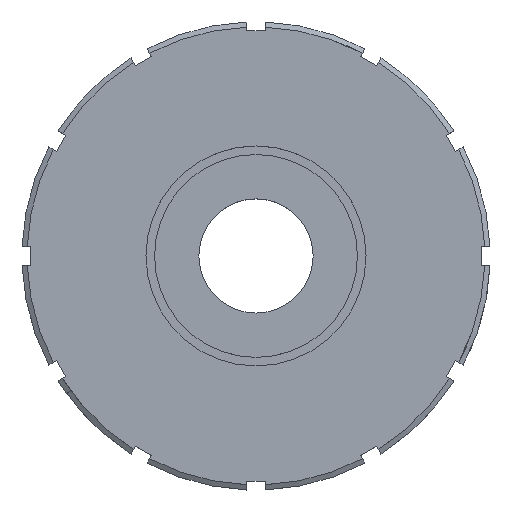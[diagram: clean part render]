
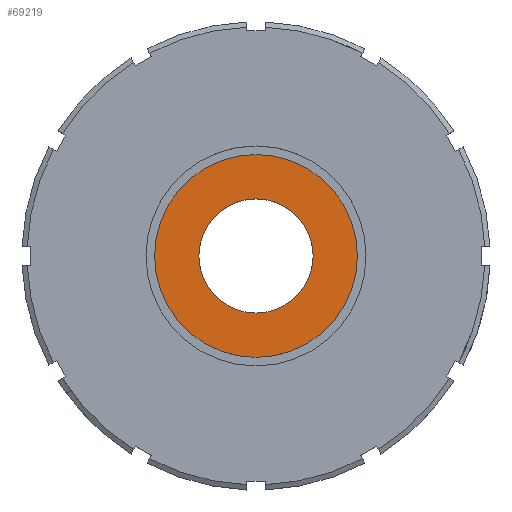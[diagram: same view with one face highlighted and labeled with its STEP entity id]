
A CAD part, top view. The second image highlights one B-rep face of the part: STEP entity #69219.
In plain terms, the highlighted planar face has unit normal (0, 0, 1).
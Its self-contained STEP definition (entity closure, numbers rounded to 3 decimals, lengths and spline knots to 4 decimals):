
#6119 = CYLINDRICAL_SURFACE('',#6120,3.4);
#6120 = AXIS2_PLACEMENT_3D('',#6121,#6122,#6123);
#6121 = CARTESIAN_POINT('',(0.,0.,-13.5));
#6122 = DIRECTION('',(0.,0.,1.));
#6123 = DIRECTION('',(1.,0.,-0.));
#43836 = EDGE_CURVE('',#43837,#43837,#43839,.T.);
#43837 = VERTEX_POINT('',#43838);
#43838 = CARTESIAN_POINT('',(3.4,0.,-9.45));
#43839 = SURFACE_CURVE('',#43840,(#43845,#43852),.PCURVE_S1.);
#43840 = CIRCLE('',#43841,3.4);
#43841 = AXIS2_PLACEMENT_3D('',#43842,#43843,#43844);
#43842 = CARTESIAN_POINT('',(0.,0.,-9.45));
#43843 = DIRECTION('',(0.,0.,1.));
#43844 = DIRECTION('',(1.,0.,-0.));
#43845 = PCURVE('',#6119,#43846);
#43846 = DEFINITIONAL_REPRESENTATION('',(#43847),#43851);
#43847 = LINE('',#43848,#43849);
#43848 = CARTESIAN_POINT('',(0.,4.05));
#43849 = VECTOR('',#43850,1.);
#43850 = DIRECTION('',(1.,0.));
#43851 = ( GEOMETRIC_REPRESENTATION_CONTEXT(2) 
PARAMETRIC_REPRESENTATION_CONTEXT() REPRESENTATION_CONTEXT('2D SPACE',''
  ) );
#43852 = PCURVE('',#43853,#43858);
#43853 = PLANE('',#43854);
#43854 = AXIS2_PLACEMENT_3D('',#43855,#43856,#43857);
#43855 = CARTESIAN_POINT('',(0.,0.,-9.45));
#43856 = DIRECTION('',(0.,0.,1.));
#43857 = DIRECTION('',(1.,0.,-0.));
#43858 = DEFINITIONAL_REPRESENTATION('',(#43859),#43863);
#43859 = CIRCLE('',#43860,3.4);
#43860 = AXIS2_PLACEMENT_2D('',#43861,#43862);
#43861 = CARTESIAN_POINT('',(0.,0.));
#43862 = DIRECTION('',(1.,0.));
#43863 = ( GEOMETRIC_REPRESENTATION_CONTEXT(2) 
PARAMETRIC_REPRESENTATION_CONTEXT() REPRESENTATION_CONTEXT('2D SPACE',''
  ) );
#69183 = CYLINDRICAL_SURFACE('',#69184,6.04);
#69184 = AXIS2_PLACEMENT_3D('',#69185,#69186,#69187);
#69185 = CARTESIAN_POINT('',(0.,0.,-11.11));
#69186 = DIRECTION('',(0.,0.,1.));
#69187 = DIRECTION('',(1.,0.,-0.));
#69219 = ADVANCED_FACE('',(#69220,#69246),#43853,.T.);
#69220 = FACE_BOUND('',#69221,.T.);
#69221 = EDGE_LOOP('',(#69222));
#69222 = ORIENTED_EDGE('',*,*,#69223,.T.);
#69223 = EDGE_CURVE('',#69224,#69224,#69226,.T.);
#69224 = VERTEX_POINT('',#69225);
#69225 = CARTESIAN_POINT('',(6.04,0.,-9.45));
#69226 = SURFACE_CURVE('',#69227,(#69232,#69239),.PCURVE_S1.);
#69227 = CIRCLE('',#69228,6.04);
#69228 = AXIS2_PLACEMENT_3D('',#69229,#69230,#69231);
#69229 = CARTESIAN_POINT('',(0.,0.,-9.45));
#69230 = DIRECTION('',(0.,0.,1.));
#69231 = DIRECTION('',(1.,0.,-0.));
#69232 = PCURVE('',#43853,#69233);
#69233 = DEFINITIONAL_REPRESENTATION('',(#69234),#69238);
#69234 = CIRCLE('',#69235,6.04);
#69235 = AXIS2_PLACEMENT_2D('',#69236,#69237);
#69236 = CARTESIAN_POINT('',(0.,0.));
#69237 = DIRECTION('',(1.,0.));
#69238 = ( GEOMETRIC_REPRESENTATION_CONTEXT(2) 
PARAMETRIC_REPRESENTATION_CONTEXT() REPRESENTATION_CONTEXT('2D SPACE',''
  ) );
#69239 = PCURVE('',#69183,#69240);
#69240 = DEFINITIONAL_REPRESENTATION('',(#69241),#69245);
#69241 = LINE('',#69242,#69243);
#69242 = CARTESIAN_POINT('',(0.,1.66));
#69243 = VECTOR('',#69244,1.);
#69244 = DIRECTION('',(1.,0.));
#69245 = ( GEOMETRIC_REPRESENTATION_CONTEXT(2) 
PARAMETRIC_REPRESENTATION_CONTEXT() REPRESENTATION_CONTEXT('2D SPACE',''
  ) );
#69246 = FACE_BOUND('',#69247,.T.);
#69247 = EDGE_LOOP('',(#69248));
#69248 = ORIENTED_EDGE('',*,*,#43836,.F.);
